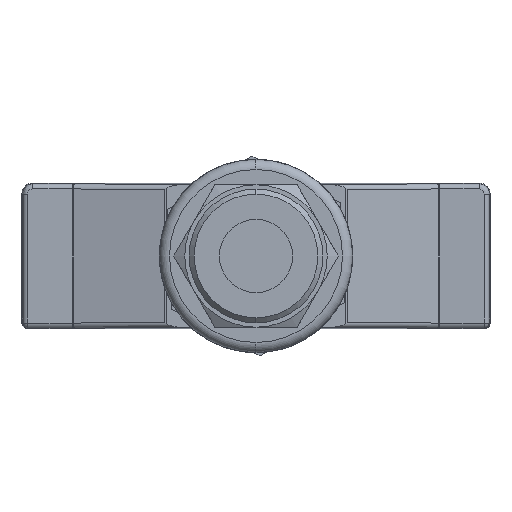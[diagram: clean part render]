
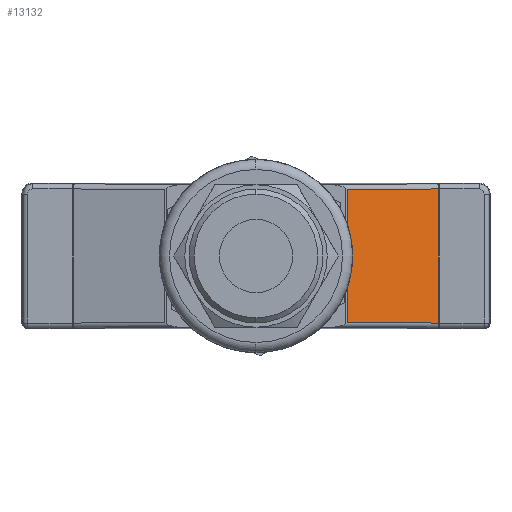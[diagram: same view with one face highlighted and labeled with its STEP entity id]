
A CAD part, front view. The second image highlights one B-rep face of the part: STEP entity #13132.
In plain terms, the highlighted planar face has unit normal (0.215, -0.977, 0).
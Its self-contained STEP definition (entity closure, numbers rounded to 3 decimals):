
#13056 = VERTEX_POINT ( 'NONE', #25856 ) ;
#13057 = ORIENTED_EDGE ( 'NONE', *, *, #13058, .T. ) ;
#13058 = EDGE_CURVE ( 'NONE', #13056, #13059, #25902, .T. ) ;
#13059 = VERTEX_POINT ( 'NONE', #25898 ) ;
#13060 = ORIENTED_EDGE ( 'NONE', *, *, #13061, .T. ) ;
#13061 = EDGE_CURVE ( 'NONE', #13059, #13062, #25897, .T. ) ;
#13062 = VERTEX_POINT ( 'NONE', #25893 ) ;
#13117 = ORIENTED_EDGE ( 'NONE', *, *, #13118, .T. ) ;
#13118 = EDGE_CURVE ( 'NONE', #13062, #13136, #26031, .T. ) ;
#13132 = ADVANCED_FACE ( 'NONE', ( #26165 ), #26164, .F. ) ;
#13133 = EDGE_LOOP ( 'NONE', ( #13134, #13057, #13060, #13117 ) ) ;
#13134 = ORIENTED_EDGE ( 'NONE', *, *, #13135, .T. ) ;
#13135 = EDGE_CURVE ( 'NONE', #13136, #13056, #26159, .T. ) ;
#13136 = VERTEX_POINT ( 'NONE', #26201 ) ;
#25856 = CARTESIAN_POINT ( 'NONE',  ( 8.948, 14.012, -6.554 ) ) ;
#25893 = CARTESIAN_POINT ( 'NONE',  ( 17.947, 15.988, 6.588 ) ) ;
#25894 = DIRECTION ( 'NONE',  ( 0., 0., 1. ) ) ;
#25895 = VECTOR ( 'NONE', #25894, 1000. ) ;
#25896 = CARTESIAN_POINT ( 'NONE',  ( 17.947, 15.988, 7.08 ) ) ;
#25897 = LINE ( 'NONE', #25896, #25895 ) ;
#25898 = CARTESIAN_POINT ( 'NONE',  ( 17.947, 15.988, -6.588 ) ) ;
#25899 = DIRECTION ( 'NONE',  ( 0.977, 0.215, -0.004 ) ) ;
#25900 = VECTOR ( 'NONE', #25899, 1000. ) ;
#25901 = CARTESIAN_POINT ( 'NONE',  ( 18.002, 16., -6.589 ) ) ;
#25902 = LINE ( 'NONE', #25901, #25900 ) ;
#26018 = DIRECTION ( 'NONE',  ( -0.977, -0.215, -0.004 ) ) ;
#26019 = VECTOR ( 'NONE', #26018, 1000. ) ;
#26020 = CARTESIAN_POINT ( 'NONE',  ( 17.95, 15.989, 6.588 ) ) ;
#26031 = LINE ( 'NONE', #26020, #26019 ) ;
#26156 = DIRECTION ( 'NONE',  ( 0., 0., -1. ) ) ;
#26157 = VECTOR ( 'NONE', #26156, 1000. ) ;
#26158 = CARTESIAN_POINT ( 'NONE',  ( 8.948, 14.012, -7.045 ) ) ;
#26159 = LINE ( 'NONE', #26158, #26157 ) ;
#26160 = DIRECTION ( 'NONE',  ( -0.977, -0.215, 0. ) ) ;
#26161 = DIRECTION ( 'NONE',  ( -0.215, 0.977, 0. ) ) ;
#26162 = CARTESIAN_POINT ( 'NONE',  ( 18., 16., -7.15 ) ) ;
#26163 = AXIS2_PLACEMENT_3D ( 'NONE', #26162, #26161, #26160 ) ;
#26164 = PLANE ( 'NONE',  #26163 ) ;
#26165 = FACE_OUTER_BOUND ( 'NONE', #13133, .T. ) ;
#26201 = CARTESIAN_POINT ( 'NONE',  ( 8.948, 14.012, 6.554 ) ) ;
